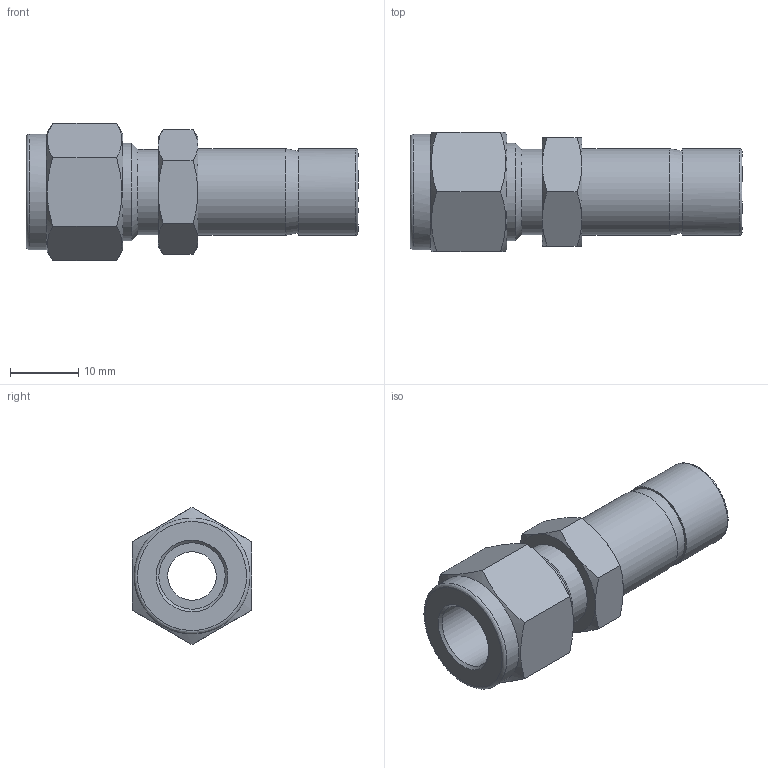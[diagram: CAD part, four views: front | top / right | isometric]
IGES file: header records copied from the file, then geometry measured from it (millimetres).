
Global section: file name: SR-6-8; native system: Autodesk Inventor 2016; preprocessor: unknown; author: DESIGNPC2; date: 20151111.200152; units: millimetre
Bounding box: 48.71 x 17.46 x 20.16 mm (x, y, z)
Volume: 5311.8 mm3; surface area: 4246.4 mm2
Topology: 1 solids, 1 shells, 47 faces, 134 edges, 94 vertices
Faces by surface type: bspline 47
